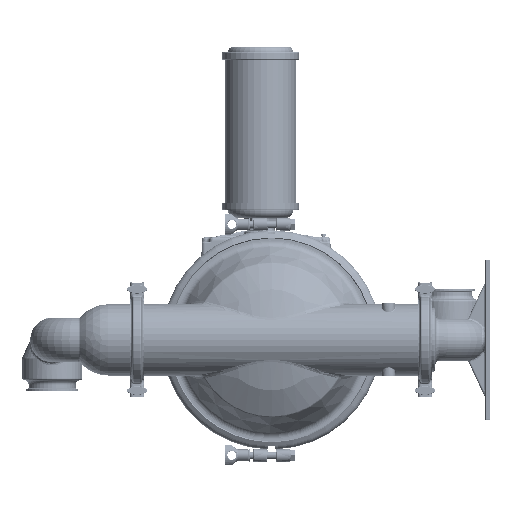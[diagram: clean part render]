
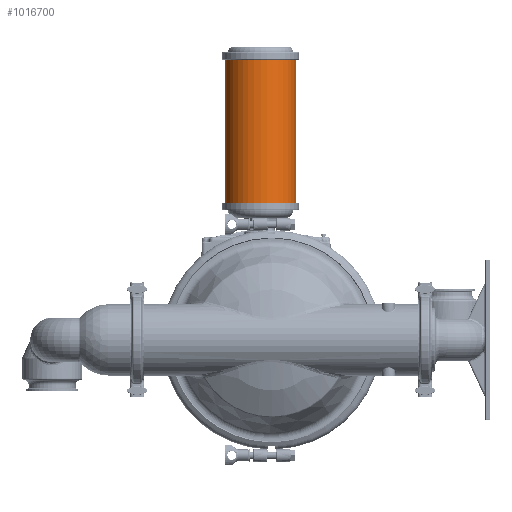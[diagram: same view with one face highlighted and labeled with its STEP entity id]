
A CAD part, left-side view. The second image highlights one B-rep face of the part: STEP entity #1016700.
In plain terms, the highlighted cylindrical face has radius 61.722 mm (diameter 123.444 mm), a partial arc.
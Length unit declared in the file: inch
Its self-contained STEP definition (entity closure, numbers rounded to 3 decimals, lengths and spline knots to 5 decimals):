
#759282=DIRECTION('',(0.,0.,1.));
#759283=VECTOR('',#759282,9.78);
#759284=CARTESIAN_POINT('',(0.,3.18,9.392));
#759285=LINE('',#759284,#759283);
#759286=DIRECTION('',(0.,0.,1.));
#759287=VECTOR('',#759286,9.78);
#759288=CARTESIAN_POINT('',(0.,-1.68,9.392));
#759289=LINE('',#759288,#759287);
#759290=CARTESIAN_POINT('',(0.,0.75,9.392));
#759291=DIRECTION('',(0.,0.,1.));
#759292=DIRECTION('',(0.,1.,0.));
#759293=AXIS2_PLACEMENT_3D('',#759290,#759291,#759292);
#759315=CARTESIAN_POINT('',(0.,0.75,19.172));
#759316=DIRECTION('',(0.,0.,1.));
#759317=DIRECTION('',(0.,1.,0.));
#759318=AXIS2_PLACEMENT_3D('',#759315,#759316,#759317);
#944717=CARTESIAN_POINT('',(0.,3.18,9.392));
#944718=CARTESIAN_POINT('',(0.,3.18,19.172));
#944719=VERTEX_POINT('',#944717);
#944720=VERTEX_POINT('',#944718);
#944721=CARTESIAN_POINT('',(0.,-1.68,9.392));
#944722=CARTESIAN_POINT('',(0.,-1.68,19.172));
#944723=VERTEX_POINT('',#944721);
#944724=VERTEX_POINT('',#944722);
#1016686=CARTESIAN_POINT('',(0.,0.75,20.6595));
#1016687=DIRECTION('',(0.,0.,-1.));
#1016688=DIRECTION('',(0.,-1.,0.));
#1016689=AXIS2_PLACEMENT_3D('',#1016686,#1016687,#1016688);
#1016690=CYLINDRICAL_SURFACE('',#1016689,2.43);
#1016692=ORIENTED_EDGE('',*,*,#1016691,.T.);
#1016694=ORIENTED_EDGE('',*,*,#1016693,.T.);
#1016696=ORIENTED_EDGE('',*,*,#1016695,.F.);
#1016697=ORIENTED_EDGE('',*,*,#1016667,.F.);
#1016698=EDGE_LOOP('',(#1016692,#1016694,#1016696,#1016697));
#1016699=FACE_OUTER_BOUND('',#1016698,.F.);
#1016700=ADVANCED_FACE('',(#1016699),#1016690,.T.);
#759294=CIRCLE('',#759293,2.43);
#759319=CIRCLE('',#759318,2.43);
#1016667=EDGE_CURVE('',#944719,#944723,#759294,.T.);
#1016691=EDGE_CURVE('',#944719,#944720,#759285,.T.);
#1016693=EDGE_CURVE('',#944720,#944724,#759319,.T.);
#1016695=EDGE_CURVE('',#944723,#944724,#759289,.T.);
